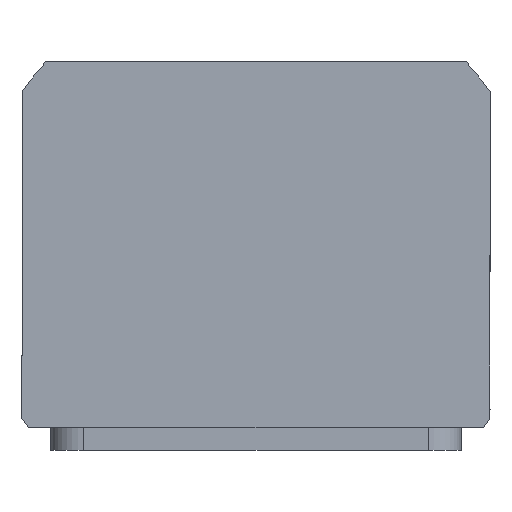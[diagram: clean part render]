
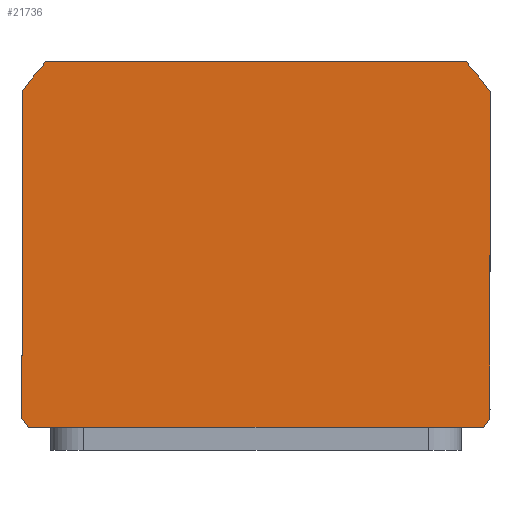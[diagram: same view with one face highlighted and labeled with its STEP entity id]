
A CAD part, top view. The second image highlights one B-rep face of the part: STEP entity #21736.
In plain terms, the highlighted planar face has unit normal (0, 0, 1) as drawn and (0, 0, -1) by its records, which use the part's own axes.
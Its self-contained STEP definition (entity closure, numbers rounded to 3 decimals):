
#147 = EDGE_CURVE ( 'NONE', #22266, #21338, #6637, .T. ) ;
#163 = DIRECTION ( 'NONE',  ( 0., 0., 1. ) ) ;
#604 = FACE_OUTER_BOUND ( 'NONE', #2987, .T. ) ;
#749 = CARTESIAN_POINT ( 'NONE',  ( -57., -37.255, 0. ) ) ;
#1085 = VECTOR ( 'NONE', #11150, 1000. ) ;
#1306 = CARTESIAN_POINT ( 'NONE',  ( -57., -44.5, 0. ) ) ;
#1319 = ORIENTED_EDGE ( 'NONE', *, *, #8213, .F. ) ;
#1457 = EDGE_CURVE ( 'NONE', #20286, #22266, #16619, .T. ) ;
#1673 = LINE ( 'NONE', #6482, #5246 ) ;
#2886 = CARTESIAN_POINT ( 'NONE',  ( 57., 42.275, 0. ) ) ;
#2987 = EDGE_LOOP ( 'NONE', ( #5002, #11090, #22548, #1319, #21778, #11170, #17219, #5825 ) ) ;
#3226 = CARTESIAN_POINT ( 'NONE',  ( 51.189, -44.5, 0. ) ) ;
#3626 = DIRECTION ( 'NONE',  ( 0., -1., 0. ) ) ;
#5002 = ORIENTED_EDGE ( 'NONE', *, *, #14940, .F. ) ;
#5024 = AXIS2_PLACEMENT_3D ( 'NONE', #17232, #6578, #19017 ) ;
#5246 = VECTOR ( 'NONE', #13724, 1000. ) ;
#5674 = CARTESIAN_POINT ( 'NONE',  ( 55.382, 44.5, 0. ) ) ;
#5825 = ORIENTED_EDGE ( 'NONE', *, *, #21711, .F. ) ;
#6211 = AXIS2_PLACEMENT_3D ( 'NONE', #15589, #6708, #19137 ) ;
#6482 = CARTESIAN_POINT ( 'NONE',  ( -57., 44.5, 0. ) ) ;
#6578 = DIRECTION ( 'NONE',  ( 0., 0., 1. ) ) ;
#6637 = LINE ( 'NONE', #7180, #16056 ) ;
#6708 = DIRECTION ( 'NONE',  ( 0., 0., 1. ) ) ;
#6761 = DIRECTION ( 'NONE',  ( 0., 0., 1. ) ) ;
#7180 = CARTESIAN_POINT ( 'NONE',  ( -57., 44.5, 0. ) ) ;
#8213 = EDGE_CURVE ( 'NONE', #14468, #21870, #19660, .T. ) ;
#10214 = CIRCLE ( 'NONE', #5024, 69.5 ) ;
#10336 = CARTESIAN_POINT ( 'NONE',  ( 0., 2.51, 0. ) ) ;
#10489 = CARTESIAN_POINT ( 'NONE',  ( -55.382, 44.5, 0. ) ) ;
#10688 = VERTEX_POINT ( 'NONE', #19020 ) ;
#10735 = CARTESIAN_POINT ( 'NONE',  ( 0., 2.51, 0. ) ) ;
#11090 = ORIENTED_EDGE ( 'NONE', *, *, #15567, .F. ) ;
#11150 = DIRECTION ( 'NONE',  ( 0., 1., 0. ) ) ;
#11170 = ORIENTED_EDGE ( 'NONE', *, *, #147, .F. ) ;
#12104 = DIRECTION ( 'NONE',  ( 1., 0., 0. ) ) ;
#12529 = DIRECTION ( 'NONE',  ( 1., 0., 0. ) ) ;
#13724 = DIRECTION ( 'NONE',  ( -1., 0., 0. ) ) ;
#14331 = VERTEX_POINT ( 'NONE', #5674 ) ;
#14468 = VERTEX_POINT ( 'NONE', #22142 ) ;
#14940 = EDGE_CURVE ( 'NONE', #19332, #14331, #10214, .T. ) ;
#14997 = VECTOR ( 'NONE', #21409, 1000. ) ;
#15214 = LINE ( 'NONE', #20003, #1085 ) ;
#15312 = EDGE_CURVE ( 'NONE', #21870, #10688, #21566, .T. ) ;
#15567 = EDGE_CURVE ( 'NONE', #10688, #19332, #15214, .T. ) ;
#15589 = CARTESIAN_POINT ( 'NONE',  ( 0., 0., 0. ) ) ;
#16056 = VECTOR ( 'NONE', #3626, 1000. ) ;
#16546 = AXIS2_PLACEMENT_3D ( 'NONE', #10336, #22745, #12104 ) ;
#16619 = CIRCLE ( 'NONE', #20204, 69.5 ) ;
#17219 = ORIENTED_EDGE ( 'NONE', *, *, #1457, .F. ) ;
#17232 = CARTESIAN_POINT ( 'NONE',  ( 0., 2.51, 0. ) ) ;
#17401 = CARTESIAN_POINT ( 'NONE',  ( 0., 2.51, 0. ) ) ;
#18347 = CARTESIAN_POINT ( 'NONE',  ( -57., 42.275, 0. ) ) ;
#18782 = EDGE_CURVE ( 'NONE', #21338, #14468, #22761, .T. ) ;
#18915 = PLANE ( 'NONE',  #6211 ) ;
#19017 = DIRECTION ( 'NONE',  ( 1., 0., 0. ) ) ;
#19020 = CARTESIAN_POINT ( 'NONE',  ( 57., -37.255, 0. ) ) ;
#19137 = DIRECTION ( 'NONE',  ( 1., 0., 0. ) ) ;
#19198 = DIRECTION ( 'NONE',  ( 1., 0., 0. ) ) ;
#19332 = VERTEX_POINT ( 'NONE', #2886 ) ;
#19660 = LINE ( 'NONE', #1306, #14997 ) ;
#20003 = CARTESIAN_POINT ( 'NONE',  ( 57., 44.5, 0. ) ) ;
#20204 = AXIS2_PLACEMENT_3D ( 'NONE', #17401, #6761, #19198 ) ;
#20286 = VERTEX_POINT ( 'NONE', #10489 ) ;
#20492 = AXIS2_PLACEMENT_3D ( 'NONE', #10735, #163, #12529 ) ;
#21338 = VERTEX_POINT ( 'NONE', #749 ) ;
#21409 = DIRECTION ( 'NONE',  ( 1., 0., 0. ) ) ;
#21566 = CIRCLE ( 'NONE', #20492, 69.5 ) ;
#21711 = EDGE_CURVE ( 'NONE', #14331, #20286, #1673, .T. ) ;
#21736 = ADVANCED_FACE ( 'NONE', ( #604 ), #18915, .F. ) ;
#21778 = ORIENTED_EDGE ( 'NONE', *, *, #18782, .F. ) ;
#21870 = VERTEX_POINT ( 'NONE', #3226 ) ;
#22142 = CARTESIAN_POINT ( 'NONE',  ( -51.189, -44.5, 0. ) ) ;
#22266 = VERTEX_POINT ( 'NONE', #18347 ) ;
#22548 = ORIENTED_EDGE ( 'NONE', *, *, #15312, .F. ) ;
#22745 = DIRECTION ( 'NONE',  ( 0., 0., 1. ) ) ;
#22761 = CIRCLE ( 'NONE', #16546, 69.5 ) ;
